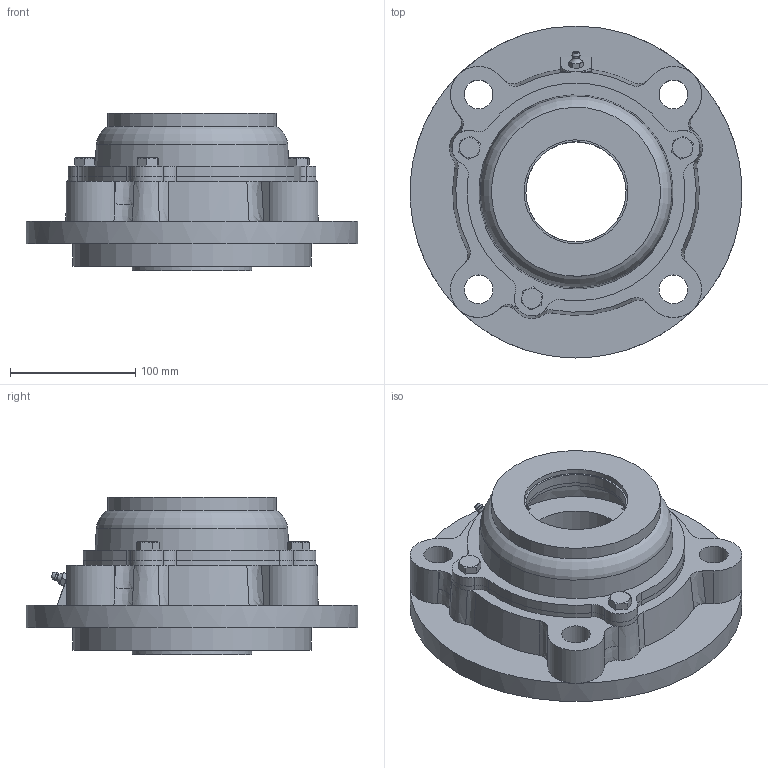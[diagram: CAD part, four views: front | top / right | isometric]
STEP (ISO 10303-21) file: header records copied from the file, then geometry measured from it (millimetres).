
FILE_DESCRIPTION((''),'2;1');
FILE_NAME('\\Ts-tgl068\j-cad-d-base\00.3DCADデータ作成フォルダ\02.フランジ形\CUKFC200\CUKFC218C+H.stp','2014-05-22T08:56:55',('btec_1106_2'),(''),'Autodesk Inventor 2012','Autodesk Inventor 2012','');
FILE_SCHEMA(('AUTOMOTIVE_DESIGN { 1 0 10303 214 1 1 1 1 }'));
Length unit declared in the file: millimetre
Products named in the file (7): CUKFC200C+H; CFC218; UK218; G1; 218C80R; 218C80; M10X1
Assembly tree (8 placements, depth 3):
  CUKFC200C+H
    CFC218
    UK218
    G1
    218C80R
      218C80
      M10X1  x3
Bounding box: 265 x 265 x 125.5 mm (x, y, z)
Volume: 2310629.6 mm3; surface area: 357633.8 mm2
Topology: 7 solids, 7 shells, 328 faces, 808 edges, 512 vertices
Faces by surface type: plane 129, cylinder 95, cone 79, bspline 17, sphere 4, torus 4
Full cylindrical faces by diameter (mm): 8.376 x3, 8.566 x1, 9.728 x1, 10 x3, 12 x3, 23 x4, 80 x2, 83 x2, 90 x1, 111.5 x2, 135 x1, 157 x1, 162 x2, 190 x1, 265 x1
Entity records: 9340 total; most frequent: CARTESIAN_POINT 2587, DIRECTION 1363, ORIENTED_EDGE 1354, EDGE_CURVE 677, AXIS2_PLACEMENT_3D 571, VERTEX_POINT 449, EDGE_LOOP 376, FACE_OUTER_BOUND 294
